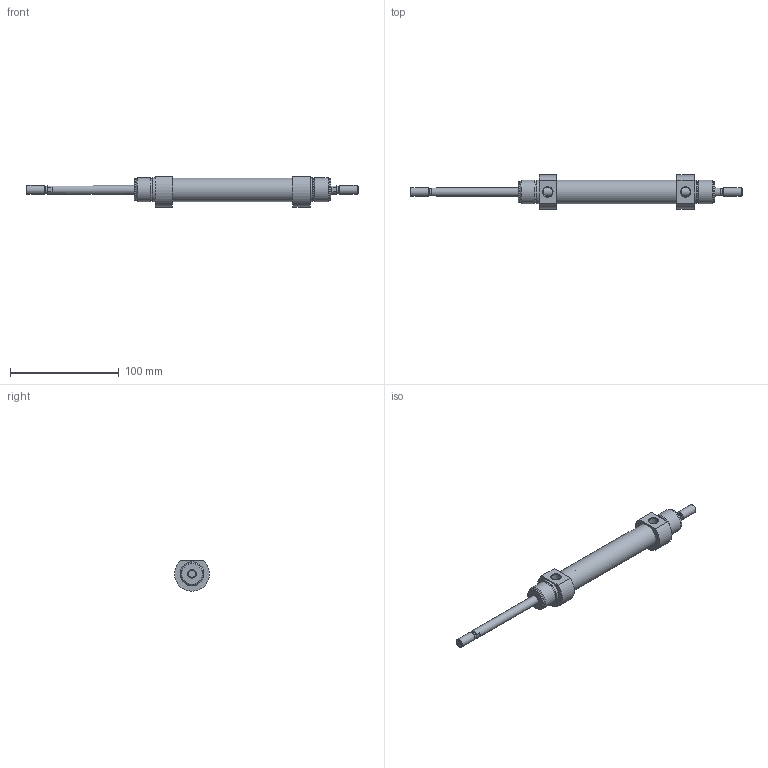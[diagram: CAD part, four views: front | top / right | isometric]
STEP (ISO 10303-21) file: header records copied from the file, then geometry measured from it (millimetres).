
FILE_DESCRIPTION( ( 'STEP AP203' ), '1' );
FILE_NAME( '//expscmdclustefs.cadenas.external/client_exchange/iodir/jobs/output/wkb68460666_no0/STEP/M101-020-0075-M__0__2_03.stp', ' ', ( ' ' ), ( ' ' ), 'PSStep 15.0.47', 'PARTsolutions', ' ' );
FILE_SCHEMA( ( 'CONFIG_CONTROL_DESIGN' ) );
Length unit declared in the file: millimetre
Products named in the file (3): M101-020-0075-M [0]; HI_M101-020-0075-M-[0]-z; HI_M101-020-0075-M-[0]-k
Assembly tree (2 placements, depth 2):
  M101-020-0075-M [0]
    HI_M101-020-0075-M-[0]-z
    HI_M101-020-0075-M-[0]-k
Bounding box: 306 x 32 x 28 mm (x, y, z)
Volume: 63920.4 mm3; surface area: 32566.2 mm2
Topology: 2 solids, 2 shells, 65 faces, 129 edges, 80 vertices
Faces by surface type: plane 26, cylinder 23, cone 14, torus 2
Full cylindrical faces by diameter (mm): 6.466 x2, 8 x6, 8.566 x2, 20 x2, 20.16 x4, 21.6 x1, 22 x4
Entity records: 1702 total; most frequent: CARTESIAN_POINT 356, DIRECTION 280, ORIENTED_EDGE 184, AXIS2_PLACEMENT_3D 128, EDGE_LOOP 116, EDGE_CURVE 92, FACE_OUTER_BOUND 88, VERTEX_POINT 76
